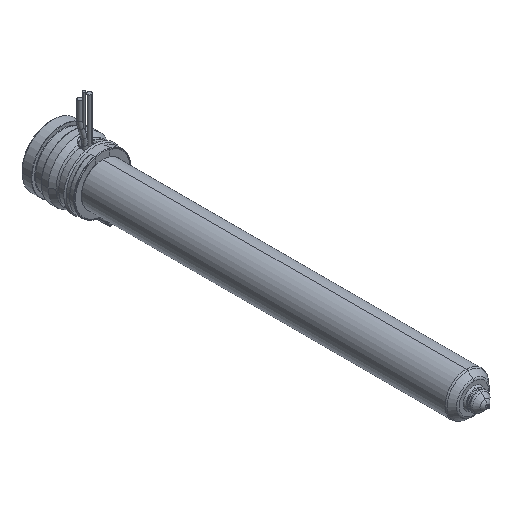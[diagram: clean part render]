
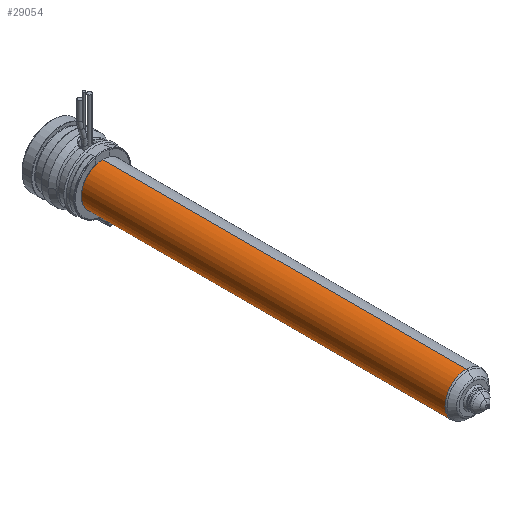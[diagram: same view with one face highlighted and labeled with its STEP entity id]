
A CAD part, isometric view. The second image highlights one B-rep face of the part: STEP entity #29054.
In plain terms, the highlighted cylindrical face has radius 9 mm (diameter 18 mm), a partial arc.
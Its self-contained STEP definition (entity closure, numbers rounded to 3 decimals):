
#28443=CARTESIAN_POINT('',(0.,-175.836,0.));
#28444=DIRECTION('',(0.,-1.,0.));
#28445=DIRECTION('',(0.,0.,1.));
#28446=AXIS2_PLACEMENT_3D('',#28443,#28444,#28445);
#28451=CARTESIAN_POINT('',(0.,-22.,0.));
#28452=DIRECTION('',(0.,-1.,0.));
#28453=DIRECTION('',(0.,0.,1.));
#28454=AXIS2_PLACEMENT_3D('',#28451,#28452,#28453);
#28459=DIRECTION('',(0.,-1.,0.));
#28460=VECTOR('',#28459,153.836);
#28461=CARTESIAN_POINT('',(0.,-22.,9.));
#28462=LINE('',#28461,#28460);
#28474=DIRECTION('',(0.,-1.,0.));
#28475=VECTOR('',#28474,153.836);
#28476=CARTESIAN_POINT('',(0.,-22.,-9.));
#28477=LINE('',#28476,#28475);
#28671=CARTESIAN_POINT('',(0.,-22.,9.));
#28672=CARTESIAN_POINT('',(0.,-175.836,9.));
#28673=VERTEX_POINT('',#28671);
#28674=VERTEX_POINT('',#28672);
#28697=CARTESIAN_POINT('',(0.,-22.,-9.));
#28698=CARTESIAN_POINT('',(0.,-175.836,-9.));
#28699=VERTEX_POINT('',#28697);
#28700=VERTEX_POINT('',#28698);
#29040=CARTESIAN_POINT('',(0.,-9.625,0.));
#29041=DIRECTION('',(0.,-1.,0.));
#29042=DIRECTION('',(0.,0.,1.));
#29043=AXIS2_PLACEMENT_3D('',#29040,#29041,#29042);
#29044=CYLINDRICAL_SURFACE('',#29043,9.);
#29046=ORIENTED_EDGE('',*,*,#29045,.T.);
#29047=ORIENTED_EDGE('',*,*,#29035,.T.);
#29049=ORIENTED_EDGE('',*,*,#29048,.F.);
#29051=ORIENTED_EDGE('',*,*,#29050,.F.);
#29052=EDGE_LOOP('',(#29046,#29047,#29049,#29051));
#29053=FACE_OUTER_BOUND('',#29052,.F.);
#29054=ADVANCED_FACE('',(#29053),#29044,.T.);
#28447=CIRCLE('',#28446,9.);
#28455=CIRCLE('',#28454,9.);
#29035=EDGE_CURVE('',#28674,#28700,#28447,.T.);
#29045=EDGE_CURVE('',#28673,#28674,#28462,.T.);
#29048=EDGE_CURVE('',#28699,#28700,#28477,.T.);
#29050=EDGE_CURVE('',#28673,#28699,#28455,.T.);
